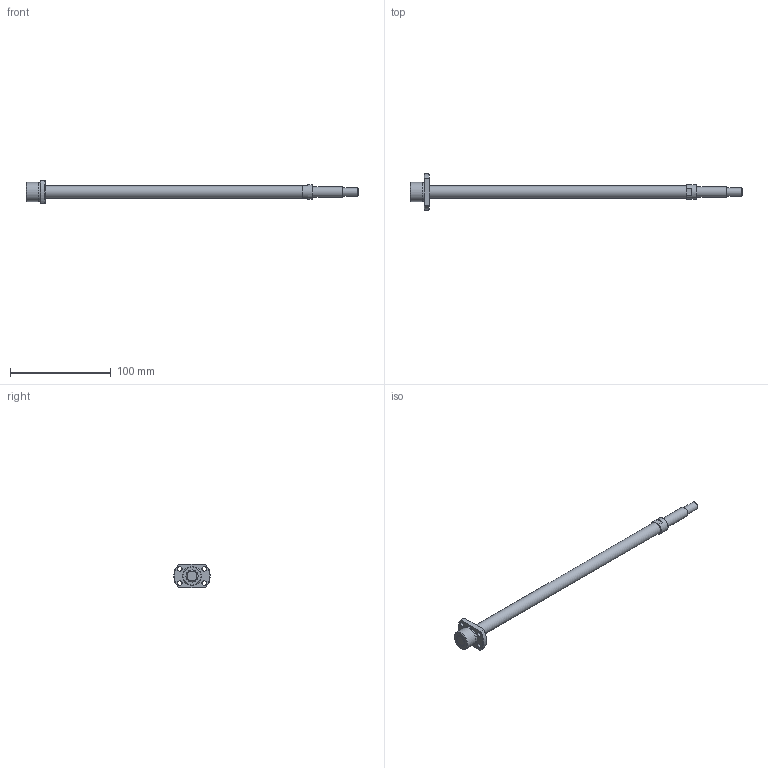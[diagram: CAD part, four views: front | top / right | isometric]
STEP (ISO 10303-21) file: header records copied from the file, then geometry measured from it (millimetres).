
FILE_DESCRIPTION( ( 'STEP AP203' ), '1' );
FILE_NAME( 'e:/temp/worker_110/temp/exporttempdir_5508_842_TpcYF/format_0/PSRT1202K-271R330C5A0X(A0).stp', '2021-10-19T08:16:55', ( 'License CC BY-ND 4.0' ), ( 'CADENAS' ), ' ', 'PARTsolutions', ' ' );
FILE_SCHEMA( ( 'CONFIG_CONTROL_DESIGN' ) );
Length unit declared in the file: millimetre
Products named in the file (3): PSRT1202K-271R330C5A0X(A0); _PSRT1202KA_shaft; _PSR1202K_nut
Assembly tree (2 placements, depth 2):
  PSRT1202K-271R330C5A0X(A0)
    _PSRT1202KA_shaft
    _PSR1202K_nut
Bounding box: 330 x 36 x 23 mm (x, y, z)
Volume: 40969.4 mm3; surface area: 15891.8 mm2
Topology: 2 solids, 2 shells, 39 faces, 84 edges, 53 vertices
Faces by surface type: plane 16, cylinder 13, cone 9, torus 1
Full cylindrical faces by diameter (mm): 4.5 x4, 8 x1, 10 x1, 12 x2, 14 x1, 18.6 x1, 19 x1
Entity records: 1108 total; most frequent: CARTESIAN_POINT 184, DIRECTION 182, ORIENTED_EDGE 132, AXIS2_PLACEMENT_3D 82, EDGE_LOOP 70, EDGE_CURVE 66, VERTEX_POINT 52, FACE_OUTER_BOUND 51
